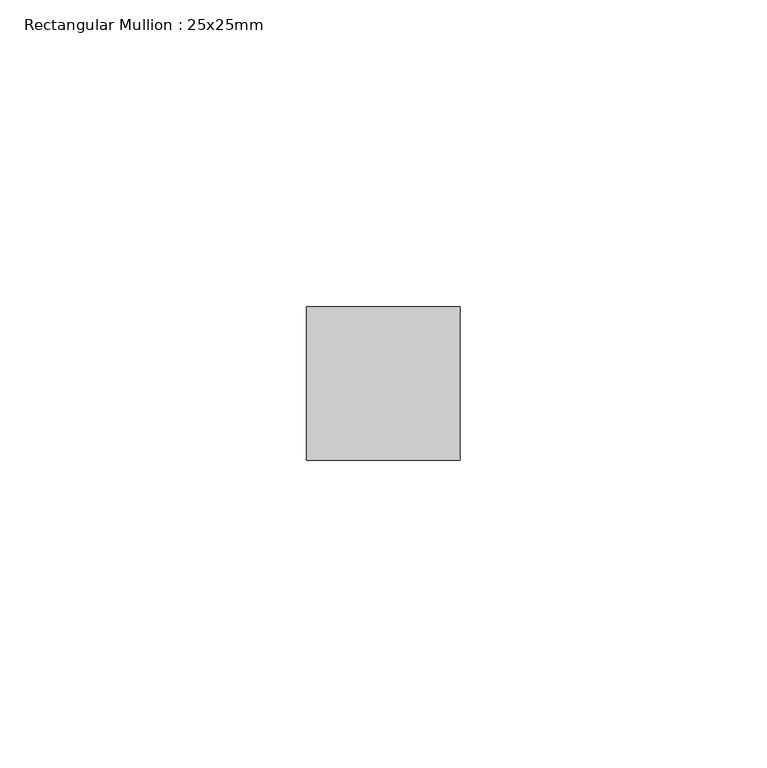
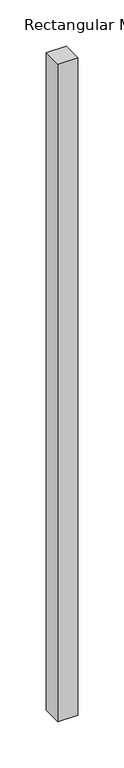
"""IFC4 building model written with IfcOpenShell, lengths in millimetres: member geometry, Rectangular Mullion : 25x25mm."""

import ifcopenshell
import ifcopenshell.guid

model = None  # the IFC model being written
_history = None  # IfcOwnerHistory: only IFC2X3 demands one
_inside = {}  # id of a spatial element -> (the spatial element, [elements in it])
_under = {}  # id of a project, library or spatial element -> (it, [spatial elements below it])
_declared = {}  # id of a project -> (the project, [libraries it declares])
_typed = {}  # id of a type object -> (the type object, [elements of that type])
_made_of = {}  # id of a material, layer set ... -> (it, [elements and type objects made of it])


def new_model(schema):
    """Start an empty IFC model of exactly this schema.

    Asked for "IFC4X3", IfcOpenShell would pick the latest addendum, in which some entities
    have other attributes; the version numbers below select the first issue.
    IFC2X3 requires an IfcOwnerHistory on every rooted entity: one is made here for all.
    """
    global model, _history
    if schema == "IFC4X3":
        model = ifcopenshell.file(schema_version=(4, 3, 0, 0))
    else:
        model = ifcopenshell.file(schema=schema)
    _inside.clear()
    _under.clear()
    _declared.clear()
    _typed.clear()
    _made_of.clear()
    _history = None
    if model.schema == "IFC2X3":
        org = make("IfcOrganization", Name="unknown")
        user = make(
            "IfcPersonAndOrganization",
            ThePerson=make("IfcPerson", FamilyName="unknown"),
            TheOrganization=org,
        )
        app = make(
            "IfcApplication",
            ApplicationDeveloper=org,
            Version="unknown",
            ApplicationFullName="unknown",
            ApplicationIdentifier="unknown",
        )
        _history = make(
            "IfcOwnerHistory",
            OwningUser=user,
            OwningApplication=app,
            ChangeAction="ADDED",
            CreationDate=0,
        )
    return model


def make(cls, **values):
    """One entity of the class cls with the attributes given. An attribute that is None is left unset."""
    return model.create_entity(
        cls, **{name: value for name, value in values.items() if value is not None}
    )


def rooted(cls, **values):
    """An entity with a GlobalId (a new one), such as an element, a storey or a relation."""
    return make(cls, GlobalId=ifcopenshell.guid.new(), OwnerHistory=_history, **values)


def si_unit(unit_type, name, prefix=None):
    """IfcSIUnit, for example si_unit("LENGTHUNIT", "METRE", prefix="MILLI")."""
    return make("IfcSIUnit", UnitType=unit_type, Prefix=prefix, Name=name)


def assignment(units):
    """IfcUnitAssignment: the units of a project."""
    return None if units is None else make("IfcUnitAssignment", Units=units)


def point(xyz):
    """IfcCartesianPoint."""
    return None if xyz is None else make("IfcCartesianPoint", Coordinates=xyz)


def direction(xyz):
    """IfcDirection."""
    return None if xyz is None else make("IfcDirection", DirectionRatios=xyz)


def frame(location, z_axis=None, x_axis=None):
    """IfcAxis2Placement3D, a coordinate frame: its origin and axes. An axis left out is left unset."""
    return make(
        "IfcAxis2Placement3D",
        Location=point(location),
        Axis=direction(z_axis),
        RefDirection=direction(x_axis),
    )


def origin():
    """The frame at (0, 0, 0) with its axes left unset."""
    return frame((0.0, 0.0, 0.0))


def place(relative_to, where):
    """IfcLocalPlacement: puts the frame where relative to a parent placement (None: the world)."""
    return make(
        "IfcLocalPlacement", PlacementRelTo=relative_to, RelativePlacement=where
    )


def context(
    kind, dimensions, precision=None, world=None, true_north=None, identifier=None
):
    """IfcGeometricRepresentationContext, for example the 3D "Model" context."""
    return make(
        "IfcGeometricRepresentationContext",
        ContextIdentifier=identifier,
        ContextType=kind,
        CoordinateSpaceDimension=dimensions,
        Precision=precision,
        WorldCoordinateSystem=world,
        TrueNorth=true_north,
    )


def project(units=None, contexts=None):
    """IfcProject with its units and contexts."""
    return rooted(
        "IfcProject",
        Name="project",
        RepresentationContexts=contexts,
        UnitsInContext=assignment(units),
    )


def spatial(cls, under=None, at=None, **own):
    """A site, building, storey or space (cls), placed at a placement, below another one or the project."""
    s = rooted(cls, ObjectPlacement=at, **own)
    if under is not None:
        _under.setdefault(under.id(), (under, []))[1].append(s)
    return s


def polyline(points):
    """IfcPolyline through the points."""
    return make("IfcPolyline", Points=[point(p) for p in points])


def outline(outer, holes=None, kind="AREA"):
    """IfcArbitraryClosedProfileDef: a profile drawn as a closed curve; with holes, ...WithVoids."""
    if holes is None:
        return make("IfcArbitraryClosedProfileDef", ProfileType=kind, OuterCurve=outer)
    return make(
        "IfcArbitraryProfileDefWithVoids",
        ProfileType=kind,
        OuterCurve=outer,
        InnerCurves=holes,
    )


def extrude(swept, where, along, depth):
    """IfcExtrudedAreaSolid: the profile swept, set in the frame where, extruded along a direction by depth."""
    return make(
        "IfcExtrudedAreaSolid",
        SweptArea=swept,
        Position=where,
        ExtrudedDirection=direction(along),
        Depth=depth,
    )


def shape(context_of_items, identifier, shape_type, items):
    """IfcShapeRepresentation: the items that make up one representation, for example the "Body"."""
    return make(
        "IfcShapeRepresentation",
        ContextOfItems=context_of_items,
        RepresentationIdentifier=identifier,
        RepresentationType=shape_type,
        Items=items,
    )


def source(mapping_origin, context_of_items, identifier, shape_type, items):
    """IfcRepresentationMap: a shape defined once, which mapped items show again and again."""
    return make(
        "IfcRepresentationMap",
        MappingOrigin=mapping_origin,
        MappedRepresentation=shape(context_of_items, identifier, shape_type, items),
    )


def transform(
    local_origin,
    x_axis=None,
    y_axis=None,
    z_axis=None,
    scale=None,
    scale2=None,
    scale3=None,
    uniform=True,
):
    """IfcCartesianTransformationOperator3D, or its non-uniform kind. x_axis, y_axis, z_axis: its Axis1, 2, 3."""
    if uniform:
        return make(
            "IfcCartesianTransformationOperator3D",
            Axis1=direction(x_axis),
            Axis2=direction(y_axis),
            LocalOrigin=point(local_origin),
            Scale=scale,
            Axis3=direction(z_axis),
        )
    return make(
        "IfcCartesianTransformationOperator3DnonUniform",
        Axis1=direction(x_axis),
        Axis2=direction(y_axis),
        LocalOrigin=point(local_origin),
        Scale=scale,
        Axis3=direction(z_axis),
        Scale2=scale2,
        Scale3=scale3,
    )


def mapped(mapping_source, mapping_target):
    """IfcMappedItem: shows the shape of a source again, moved by a transform."""
    return make(
        "IfcMappedItem", MappingSource=mapping_source, MappingTarget=mapping_target
    )


def made_of(thing, what):
    """Note that an element or type object is made of a material, layer set ...; save() writes the relation."""
    if what is not None:
        _made_of.setdefault(what.id(), (what, []))[1].append(thing)
    return thing


def element(
    cls,
    number,
    at=None,
    inside=None,
    cuts=None,
    type_object=None,
    material=None,
    context=None,
    identifier="Body",
    shape_type=None,
    held_by="IfcProductDefinitionShape",
    body=None,
    shapes=None,
    **own,
):
    """One element of the class cls, such as IfcWall. Its Tag is "e" and its number.

    at: its placement. inside: the storey or other place that contains it. cuts: it is an
    opening in that element (IfcRelVoidsElement). A single representation is given by context,
    identifier, shape_type and body (its items); several are given by shapes. held_by: the class
    of the entity that holds the representations. save() writes the other relations.
    """
    e = rooted(cls, Tag="e%d" % number, ObjectPlacement=at, **own)
    if body is not None:
        shapes = [shape(context, identifier, shape_type, body)]
    if shapes is not None:
        e.Representation = make(held_by, Representations=shapes)
    if inside is not None:
        _inside.setdefault(inside.id(), (inside, []))[1].append(e)
    if cuts is not None:
        rooted(
            "IfcRelVoidsElement", RelatingBuildingElement=cuts, RelatedOpeningElement=e
        )
    if type_object is not None:
        _typed.setdefault(type_object.id(), (type_object, []))[1].append(e)
    return made_of(e, material)


def aggregate(whole, parts):
    """IfcRelAggregates: a whole, such as a stair, and the parts it consists of."""
    return rooted("IfcRelAggregates", RelatingObject=whole, RelatedObjects=parts)


def save(model, path):
    """Write the relations noted so far, then the file.

    IfcRelAggregates (storeys below a building ...), IfcRelContainedInSpatialStructure (elements
    in a storey), IfcRelDefinesByType, IfcRelAssociatesMaterial and IfcRelDeclares: one each for
    every whole, place, type object, material and project.
    """
    for whole, parts in _under.values():
        aggregate(whole, parts)
    for where, things in _inside.values():
        rooted(
            "IfcRelContainedInSpatialStructure",
            RelatedElements=things,
            RelatingStructure=where,
        )
    for kind, things in _typed.values():
        rooted("IfcRelDefinesByType", RelatedObjects=things, RelatingType=kind)
    for what, things in _made_of.values():
        rooted("IfcRelAssociatesMaterial", RelatedObjects=things, RelatingMaterial=what)
    for by, libraries in _declared.values():
        rooted("IfcRelDeclares", RelatingContext=by, RelatedDefinitions=libraries)
    model.write(path)


def rectangular_mullion_25x25mm_24ec2a09(model_context):
    return source(origin(), model_context, "Body", "SweptSolid", [
        extrude(outline(polyline([(0.0, 24.5), (0.0, -0.5), (-25.0, -0.5), (-25.0, 24.5), (0.0, 24.5)])), frame((0.0, 0.0, -868.7836067), z_axis=(0.0, 0.0, 1.0), x_axis=(1.0, 0.0, 0.0)), (0.0, 0.0, 1.0), 868.7836067),
    ])


if __name__ == "__main__":
    model = new_model("IFC4")
    model_context = context("Model", 3, world=origin())
    ifc_project = project(units=[si_unit("LENGTHUNIT", "METRE", prefix="MILLI")], contexts=[model_context])
    site = spatial("IfcSite", under=ifc_project)
    building = spatial("IfcBuilding", under=site)
    placement = place(None, origin())
    rectangular_mullion_25x25mm_shape = rectangular_mullion_25x25mm_24ec2a09(model_context)
    element("IfcMember", 1, ObjectType="Rectangular Mullion : 25x25mm", at=placement, inside=building, context=model_context, shape_type="MappedRepresentation", body=[
        mapped(rectangular_mullion_25x25mm_shape, transform((0.0, 0.0, 0.0), x_axis=(1.0, 0.0, 0.0), y_axis=(0.0, 1.0, 0.0), z_axis=(0.0, 0.0, 1.0))),
    ])
    save(model, "model.ifc")
